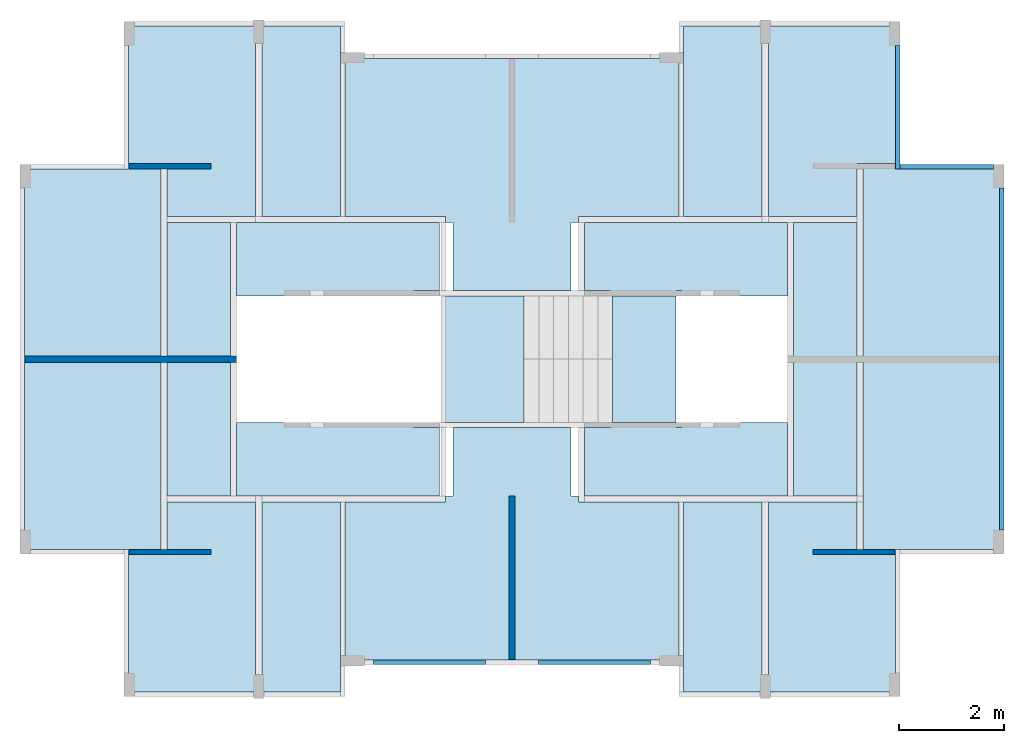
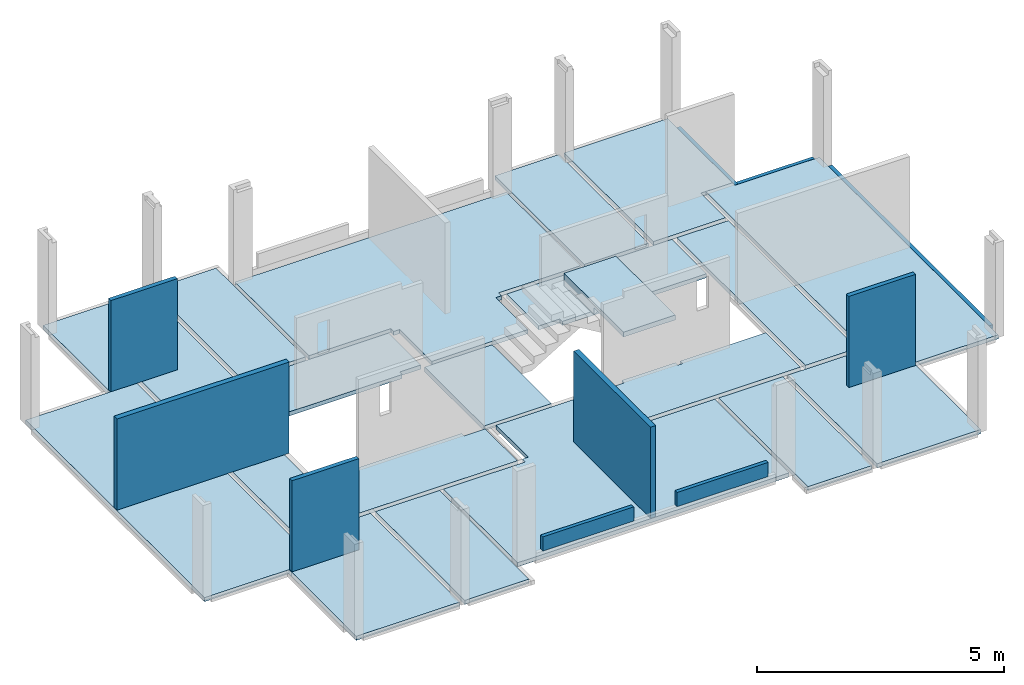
# One storey, part 3 of 6: 20 slabs, 7 walls, 3 beams, 1 element without a shape of its own.
"""IFC4 building model written with IfcOpenShell, lengths in metres."""

import ifcopenshell
import ifcopenshell.guid

model = None  # the IFC model being written
_history = None  # IfcOwnerHistory: only IFC2X3 demands one
_inside = {}  # id of a spatial element -> (the spatial element, [elements in it])
_under = {}  # id of a project, library or spatial element -> (it, [spatial elements below it])
_declared = {}  # id of a project -> (the project, [libraries it declares])
_typed = {}  # id of a type object -> (the type object, [elements of that type])
_made_of = {}  # id of a material, layer set ... -> (it, [elements and type objects made of it])


def new_model(schema):
    """Start an empty IFC model of exactly this schema.

    Asked for "IFC4X3", IfcOpenShell would pick the latest addendum, in which some entities
    have other attributes; the version numbers below select the first issue.
    IFC2X3 requires an IfcOwnerHistory on every rooted entity: one is made here for all.
    """
    global model, _history
    if schema == "IFC4X3":
        model = ifcopenshell.file(schema_version=(4, 3, 0, 0))
    else:
        model = ifcopenshell.file(schema=schema)
    _inside.clear()
    _under.clear()
    _declared.clear()
    _typed.clear()
    _made_of.clear()
    _history = None
    if model.schema == "IFC2X3":
        org = make("IfcOrganization", Name="unknown")
        user = make(
            "IfcPersonAndOrganization",
            ThePerson=make("IfcPerson", FamilyName="unknown"),
            TheOrganization=org,
        )
        app = make(
            "IfcApplication",
            ApplicationDeveloper=org,
            Version="unknown",
            ApplicationFullName="unknown",
            ApplicationIdentifier="unknown",
        )
        _history = make(
            "IfcOwnerHistory",
            OwningUser=user,
            OwningApplication=app,
            ChangeAction="ADDED",
            CreationDate=0,
        )
    return model


def make(cls, **values):
    """One entity of the class cls with the attributes given. An attribute that is None is left unset."""
    return model.create_entity(
        cls, **{name: value for name, value in values.items() if value is not None}
    )


def entity(cls, *values):
    """Any entity or typed value of the class cls, its attributes in the order of the schema. None: left unset."""
    e = model.create_entity(cls)
    for i, value in enumerate(values):
        if value is not None:
            e[i] = value
    return e


def rooted(cls, **values):
    """An entity with a GlobalId (a new one), such as an element, a storey or a relation."""
    return make(cls, GlobalId=ifcopenshell.guid.new(), OwnerHistory=_history, **values)


def si_unit(unit_type, name, prefix=None):
    """IfcSIUnit, for example si_unit("LENGTHUNIT", "METRE", prefix="MILLI")."""
    return make("IfcSIUnit", UnitType=unit_type, Prefix=prefix, Name=name)


def converted_unit(unit_type, name, factor, base, dimensions=None, offset=None):
    """IfcConversionBasedUnit, such as the inch: factor (a typed value) times the base unit."""
    return make(
        "IfcConversionBasedUnit"
        if offset is None
        else "IfcConversionBasedUnitWithOffset",
        ConversionOffset=offset,
        Dimensions=None
        if dimensions is None
        else entity("IfcDimensionalExponents", *dimensions),
        UnitType=unit_type,
        Name=name,
        ConversionFactor=make(
            "IfcMeasureWithUnit", ValueComponent=factor, UnitComponent=base
        ),
    )


def derived_unit(unit_type, elements):
    """IfcDerivedUnit: a product of units, each with its exponent."""
    return make(
        "IfcDerivedUnit",
        Elements=[
            make("IfcDerivedUnitElement", Unit=unit, Exponent=power)
            for unit, power in elements
        ],
        UnitType=unit_type,
    )


def assignment(units):
    """IfcUnitAssignment: the units of a project."""
    return None if units is None else make("IfcUnitAssignment", Units=units)


def point(xyz):
    """IfcCartesianPoint."""
    return None if xyz is None else make("IfcCartesianPoint", Coordinates=xyz)


def direction(xyz):
    """IfcDirection."""
    return None if xyz is None else make("IfcDirection", DirectionRatios=xyz)


def frame(location, z_axis=None, x_axis=None):
    """IfcAxis2Placement3D, a coordinate frame: its origin and axes. An axis left out is left unset."""
    return make(
        "IfcAxis2Placement3D",
        Location=point(location),
        Axis=direction(z_axis),
        RefDirection=direction(x_axis),
    )


def frame_2d(location, x_axis=None):
    """IfcAxis2Placement2D, a coordinate frame in the plane: its origin and x axis."""
    return make(
        "IfcAxis2Placement2D", Location=point(location), RefDirection=direction(x_axis)
    )


def origin():
    """The frame at (0, 0, 0) with its axes left unset."""
    return frame((0.0, 0.0, 0.0))


def place(relative_to, where):
    """IfcLocalPlacement: puts the frame where relative to a parent placement (None: the world)."""
    return make(
        "IfcLocalPlacement", PlacementRelTo=relative_to, RelativePlacement=where
    )


def context(
    kind, dimensions, precision=None, world=None, true_north=None, identifier=None
):
    """IfcGeometricRepresentationContext, for example the 3D "Model" context."""
    return make(
        "IfcGeometricRepresentationContext",
        ContextIdentifier=identifier,
        ContextType=kind,
        CoordinateSpaceDimension=dimensions,
        Precision=precision,
        WorldCoordinateSystem=world,
        TrueNorth=true_north,
    )


def subcontext(parent, identifier, kind, view, scale=None):
    """IfcGeometricRepresentationSubContext, for example "Body" below "Model"."""
    return make(
        "IfcGeometricRepresentationSubContext",
        ContextIdentifier=identifier,
        ContextType=kind,
        ParentContext=parent,
        TargetScale=scale,
        TargetView=view,
    )


def project(units=None, contexts=None):
    """IfcProject with its units and contexts."""
    return rooted(
        "IfcProject",
        Name="project",
        RepresentationContexts=contexts,
        UnitsInContext=assignment(units),
    )


def spatial(cls, under=None, at=None, **own):
    """A site, building, storey or space (cls), placed at a placement, below another one or the project."""
    s = rooted(cls, ObjectPlacement=at, **own)
    if under is not None:
        _under.setdefault(under.id(), (under, []))[1].append(s)
    return s


def polyline(points):
    """IfcPolyline through the points."""
    return make("IfcPolyline", Points=[point(p) for p in points])


def point_list(points):
    """IfcCartesianPointList2D or 3D."""
    cls = (
        "IfcCartesianPointList2D" if len(points[0]) == 2 else "IfcCartesianPointList3D"
    )
    return make(cls, CoordList=points)


def indexed_curve(points, segments=None, self_intersect=None):
    """IfcIndexedPolyCurve: lines and arcs through numbered points (the first is 1)."""
    return make(
        "IfcIndexedPolyCurve",
        Points=point_list(points),
        Segments=segments,
        SelfIntersect=self_intersect,
    )


def profile(cls, at=None, kind="AREA", **sizes):
    """A parametric profile (cls). Its sizes go by their IFC names, for example OverallWidth=200.0."""
    return make(cls, ProfileType=kind, Position=at, **sizes)


def rectangle(**sizes):
    """IfcRectangleProfileDef."""
    return profile("IfcRectangleProfileDef", **sizes)


def outline(outer, holes=None, kind="AREA"):
    """IfcArbitraryClosedProfileDef: a profile drawn as a closed curve; with holes, ...WithVoids."""
    if holes is None:
        return make("IfcArbitraryClosedProfileDef", ProfileType=kind, OuterCurve=outer)
    return make(
        "IfcArbitraryProfileDefWithVoids",
        ProfileType=kind,
        OuterCurve=outer,
        InnerCurves=holes,
    )


def extrude(swept, where, along, depth):
    """IfcExtrudedAreaSolid: the profile swept, set in the frame where, extruded along a direction by depth."""
    return make(
        "IfcExtrudedAreaSolid",
        SweptArea=swept,
        Position=where,
        ExtrudedDirection=direction(along),
        Depth=depth,
    )


def polygons(points, faces, closed=None, point_numbers=None):
    """IfcPolygonalFaceSet: a face is its outer loop, then its inner loops; points numbered from 1."""
    made = []
    for loops in faces:
        if len(loops) == 1:
            made.append(make("IfcIndexedPolygonalFace", CoordIndex=loops[0]))
        else:
            made.append(
                make(
                    "IfcIndexedPolygonalFaceWithVoids",
                    CoordIndex=loops[0],
                    InnerCoordIndices=loops[1:],
                )
            )
    return make(
        "IfcPolygonalFaceSet",
        Coordinates=point_list(points),
        Closed=closed,
        Faces=made,
        PnIndex=point_numbers,
    )


def shape(context_of_items, identifier, shape_type, items):
    """IfcShapeRepresentation: the items that make up one representation, for example the "Body"."""
    return make(
        "IfcShapeRepresentation",
        ContextOfItems=context_of_items,
        RepresentationIdentifier=identifier,
        RepresentationType=shape_type,
        Items=items,
    )


def source(mapping_origin, context_of_items, identifier, shape_type, items):
    """IfcRepresentationMap: a shape defined once, which mapped items show again and again."""
    return make(
        "IfcRepresentationMap",
        MappingOrigin=mapping_origin,
        MappedRepresentation=shape(context_of_items, identifier, shape_type, items),
    )


def transform(
    local_origin,
    x_axis=None,
    y_axis=None,
    z_axis=None,
    scale=None,
    scale2=None,
    scale3=None,
    uniform=True,
):
    """IfcCartesianTransformationOperator3D, or its non-uniform kind. x_axis, y_axis, z_axis: its Axis1, 2, 3."""
    if uniform:
        return make(
            "IfcCartesianTransformationOperator3D",
            Axis1=direction(x_axis),
            Axis2=direction(y_axis),
            LocalOrigin=point(local_origin),
            Scale=scale,
            Axis3=direction(z_axis),
        )
    return make(
        "IfcCartesianTransformationOperator3DnonUniform",
        Axis1=direction(x_axis),
        Axis2=direction(y_axis),
        LocalOrigin=point(local_origin),
        Scale=scale,
        Axis3=direction(z_axis),
        Scale2=scale2,
        Scale3=scale3,
    )


def mapped(mapping_source, mapping_target):
    """IfcMappedItem: shows the shape of a source again, moved by a transform."""
    return make(
        "IfcMappedItem", MappingSource=mapping_source, MappingTarget=mapping_target
    )


def material(Name=None, Category=None):
    """IfcMaterial."""
    return make("IfcMaterial", Name=Name, Category=Category)


def made_of(thing, what):
    """Note that an element or type object is made of a material, layer set ...; save() writes the relation."""
    if what is not None:
        _made_of.setdefault(what.id(), (what, []))[1].append(thing)
    return thing


def type_object(cls, material=None, **own):
    """A type object (cls), such as IfcWallType, which elements share."""
    return made_of(rooted(cls, **own), material)


def type_shapes(of_type, sources):
    """Give a type object the sources (RepresentationMaps) that its elements show as mapped items."""
    of_type.RepresentationMaps = sources


def element(
    cls,
    number,
    at=None,
    inside=None,
    cuts=None,
    type_object=None,
    material=None,
    context=None,
    identifier="Body",
    shape_type=None,
    held_by="IfcProductDefinitionShape",
    body=None,
    shapes=None,
    **own,
):
    """One element of the class cls, such as IfcWall. Its Tag is "e" and its number.

    at: its placement. inside: the storey or other place that contains it. cuts: it is an
    opening in that element (IfcRelVoidsElement). A single representation is given by context,
    identifier, shape_type and body (its items); several are given by shapes. held_by: the class
    of the entity that holds the representations. save() writes the other relations.
    """
    e = rooted(cls, Tag="e%d" % number, ObjectPlacement=at, **own)
    if body is not None:
        shapes = [shape(context, identifier, shape_type, body)]
    if shapes is not None:
        e.Representation = make(held_by, Representations=shapes)
    if inside is not None:
        _inside.setdefault(inside.id(), (inside, []))[1].append(e)
    if cuts is not None:
        rooted(
            "IfcRelVoidsElement", RelatingBuildingElement=cuts, RelatedOpeningElement=e
        )
    if type_object is not None:
        _typed.setdefault(type_object.id(), (type_object, []))[1].append(e)
    return made_of(e, material)


def aggregate(whole, parts):
    """IfcRelAggregates: a whole, such as a stair, and the parts it consists of."""
    return rooted("IfcRelAggregates", RelatingObject=whole, RelatedObjects=parts)


def save(model, path):
    """Write the relations noted so far, then the file.

    IfcRelAggregates (storeys below a building ...), IfcRelContainedInSpatialStructure (elements
    in a storey), IfcRelDefinesByType, IfcRelAssociatesMaterial and IfcRelDeclares: one each for
    every whole, place, type object, material and project.
    """
    for whole, parts in _under.values():
        aggregate(whole, parts)
    for where, things in _inside.values():
        rooted(
            "IfcRelContainedInSpatialStructure",
            RelatedElements=things,
            RelatingStructure=where,
        )
    for kind, things in _typed.values():
        rooted("IfcRelDefinesByType", RelatedObjects=things, RelatingType=kind)
    for what, things in _made_of.values():
        rooted("IfcRelAssociatesMaterial", RelatedObjects=things, RelatingMaterial=what)
    for by, libraries in _declared.values():
        rooted("IfcRelDeclares", RelatingContext=by, RelatedDefinitions=libraries)
    model.write(path)


model = new_model("IFC4")

# Units and contexts
model_context = context("Model", 3, precision=1e-05, world=origin(), true_north=direction((6.123031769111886e-17, 1.0)))
body_context = subcontext(model_context, "Body", "Model", "MODEL_VIEW")
ifc_project = project(units=[si_unit("LENGTHUNIT", "METRE"), si_unit("AREAUNIT", "SQUARE_METRE"), si_unit("VOLUMEUNIT", "CUBIC_METRE"), converted_unit("PLANEANGLEUNIT", "DEGREE", entity("IfcRatioMeasure", 0.017453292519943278), si_unit("PLANEANGLEUNIT", "RADIAN"), dimensions=[0, 0, 0, 0, 0, 0, 0]), si_unit("MASSUNIT", "GRAM", prefix="KILO"), derived_unit("MASSDENSITYUNIT", [(si_unit("MASSUNIT", "GRAM", prefix="KILO"), 1), (si_unit("LENGTHUNIT", "METRE"), -3)]), derived_unit("IONCONCENTRATIONUNIT", [(si_unit("MASSUNIT", "GRAM", prefix="KILO"), 1), (si_unit("LENGTHUNIT", "METRE"), -3)]), derived_unit("MOMENTOFINERTIAUNIT", [(si_unit("LENGTHUNIT", "METRE"), 4)]), si_unit("TIMEUNIT", "SECOND"), si_unit("FREQUENCYUNIT", "HERTZ"), si_unit("THERMODYNAMICTEMPERATUREUNIT", "DEGREE_CELSIUS"), derived_unit("THERMALTRANSMITTANCEUNIT", [(si_unit("MASSUNIT", "GRAM", prefix="KILO"), 1), (si_unit("THERMODYNAMICTEMPERATUREUNIT", "KELVIN"), -1), (si_unit("TIMEUNIT", "SECOND"), -3)]), derived_unit("THERMALCONDUCTANCEUNIT", [(si_unit("MASSUNIT", "GRAM", prefix="KILO"), 1), (si_unit("THERMODYNAMICTEMPERATUREUNIT", "KELVIN"), -1), (si_unit("TIMEUNIT", "SECOND"), -3), (si_unit("LENGTHUNIT", "METRE"), 1)]), derived_unit("VOLUMETRICFLOWRATEUNIT", [(si_unit("LENGTHUNIT", "METRE"), 3), (si_unit("TIMEUNIT", "SECOND"), -1)]), derived_unit("MASSFLOWRATEUNIT", [(si_unit("MASSUNIT", "GRAM", prefix="KILO"), 1), (si_unit("TIMEUNIT", "SECOND"), -1)]), derived_unit("ROTATIONALFREQUENCYUNIT", [(si_unit("TIMEUNIT", "SECOND"), -1)]), si_unit("ELECTRICCURRENTUNIT", "AMPERE"), si_unit("ELECTRICVOLTAGEUNIT", "VOLT"), si_unit("POWERUNIT", "WATT"), si_unit("FORCEUNIT", "NEWTON", prefix="KILO"), si_unit("ILLUMINANCEUNIT", "LUX"), si_unit("LUMINOUSFLUXUNIT", "LUMEN"), si_unit("LUMINOUSINTENSITYUNIT", "CANDELA"), derived_unit("USERDEFINED", [(si_unit("MASSUNIT", "GRAM", prefix="KILO"), -1), (si_unit("LENGTHUNIT", "METRE"), -2), (si_unit("TIMEUNIT", "SECOND"), 3), (si_unit("LUMINOUSFLUXUNIT", "LUMEN"), 1)]), derived_unit("USERDEFINED", [(si_unit("MASSUNIT", "GRAM", prefix="KILO"), 1), (si_unit("TIMEUNIT", "SECOND"), -3), (si_unit("LENGTHUNIT", "METRE"), 3), (si_unit("ELECTRICCURRENTUNIT", "AMPERE"), -2)]), derived_unit("SOUNDPOWERUNIT", [(si_unit("MASSUNIT", "GRAM", prefix="KILO"), 1), (si_unit("TIMEUNIT", "SECOND"), -3), (si_unit("LENGTHUNIT", "METRE"), 2)]), derived_unit("SOUNDPRESSUREUNIT", [(si_unit("MASSUNIT", "GRAM", prefix="KILO"), 1), (si_unit("LENGTHUNIT", "METRE"), -1), (si_unit("TIMEUNIT", "SECOND"), -2)]), derived_unit("LINEARVELOCITYUNIT", [(si_unit("LENGTHUNIT", "METRE"), 1), (si_unit("TIMEUNIT", "SECOND"), -1)]), si_unit("PRESSUREUNIT", "PASCAL"), derived_unit("USERDEFINED", [(si_unit("MASSUNIT", "GRAM", prefix="KILO"), 1), (si_unit("LENGTHUNIT", "METRE"), -2), (si_unit("TIMEUNIT", "SECOND"), -2)]), derived_unit("LINEARFORCEUNIT", [(si_unit("MASSUNIT", "GRAM", prefix="KILO"), 1), (si_unit("TIMEUNIT", "SECOND"), -2)]), derived_unit("PLANARFORCEUNIT", [(si_unit("MASSUNIT", "GRAM", prefix="KILO"), 1), (si_unit("LENGTHUNIT", "METRE"), -1), (si_unit("TIMEUNIT", "SECOND"), -2)]), derived_unit("SPECIFICHEATCAPACITYUNIT", [(si_unit("THERMODYNAMICTEMPERATUREUNIT", "KELVIN"), -1), (si_unit("LENGTHUNIT", "METRE"), 2), (si_unit("TIMEUNIT", "SECOND"), -2)]), derived_unit("HEATINGVALUEUNIT", [(si_unit("LENGTHUNIT", "METRE"), 2), (si_unit("TIMEUNIT", "SECOND"), -2)]), derived_unit("VAPORPERMEABILITYUNIT", [(si_unit("LENGTHUNIT", "METRE"), -1), (si_unit("TIMEUNIT", "SECOND"), 1)]), derived_unit("DYNAMICVISCOSITYUNIT", [(si_unit("MASSUNIT", "GRAM", prefix="KILO"), 1), (si_unit("TIMEUNIT", "SECOND"), -1), (si_unit("LENGTHUNIT", "METRE"), -1)]), derived_unit("THERMALEXPANSIONCOEFFICIENTUNIT", [(si_unit("THERMODYNAMICTEMPERATUREUNIT", "KELVIN"), -1)]), derived_unit("MODULUSOFELASTICITYUNIT", [(si_unit("MASSUNIT", "GRAM", prefix="KILO"), 1), (si_unit("LENGTHUNIT", "METRE"), -1), (si_unit("TIMEUNIT", "SECOND"), -2)]), derived_unit("ISOTHERMALMOISTURECAPACITYUNIT", [(si_unit("LENGTHUNIT", "METRE"), 3), (si_unit("MASSUNIT", "GRAM", prefix="KILO"), -1)]), derived_unit("MOISTUREDIFFUSIVITYUNIT", [(si_unit("TIMEUNIT", "SECOND"), -1), (si_unit("LENGTHUNIT", "METRE"), 2)])], contexts=[model_context])

# Site, building, storey
site_placement = place(None, origin())
site = spatial("IfcSite", under=ifc_project, at=site_placement, Name="Default", CompositionType="ELEMENT")
building_placement = place(site_placement, origin())
building = spatial("IfcBuilding", under=site, at=building_placement, Name="Las nubes", CompositionType="ELEMENT")
storey_placement = place(building_placement, frame((0.0, 0.0, 7.050000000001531)))
storey = spatial("IfcBuildingStorey", under=building, at=storey_placement, Name="PISO 4", CompositionType="ELEMENT", Elevation=7.050000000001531)

# Beams
ifc_material_1 = material(Name="Concrete, Cast In Situ", Category="Materials")
beam_type_1 = type_object("IfcBeamType", Name="M_Concrete-Rectangular Beam:(0.085x0.10)", PredefinedType="BEAM", material=ifc_material_1)
shared_shape_1 = source(origin(), body_context, "Body", "SweptSolid", [
    extrude(outline(indexed_curve([(-0.042499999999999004, -0.04999999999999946), (0.042500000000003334, -0.04999999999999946), (0.042500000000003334, 0.050000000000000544), (-0.042499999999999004, 0.050000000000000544), (-0.042499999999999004, -0.04999999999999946)], self_intersect=False)), frame((18.630000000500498, -9.675000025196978, 7.0), z_axis=(0.0, 1.0, 0.0), x_axis=(-1.0, 0.0, 0.0)), (0.0, 0.0, 1.0), 6.499999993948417),
])
type_shapes(beam_type_1, [shared_shape_1])
beam_1_placement = place(storey_placement, frame((0.0, 0.0, -7.050000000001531)))
element("IfcBeam", 1, at=beam_1_placement, inside=storey, type_object=beam_type_1, material=ifc_material_1, Name="M_Concrete-Rectangular Beam:(0.085x0.10)", ObjectType="M_Concrete-Rectangular Beam:(0.085x0.10)", PredefinedType="BEAM", context=body_context, shape_type="MappedRepresentation", body=[
    mapped(shared_shape_1, transform((0.0, 0.0, 0.0), scale=1.0)),
])
beam_type_2 = type_object("IfcBeamType", Name="M_Concrete-Rectangular Beam:(0.085x0.10)", PredefinedType="BEAM", material=ifc_material_1)
shared_shape_2 = source(origin(), body_context, "Body", "SweptSolid", [
    extrude(outline(indexed_curve([(-0.042500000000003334, -0.04999999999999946), (0.042499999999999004, -0.04999999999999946), (0.042499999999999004, 0.050000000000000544), (-0.042500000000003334, 0.050000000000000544), (-0.042500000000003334, -0.04999999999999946)], self_intersect=False)), frame((16.65500000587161, -2.8099983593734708, 7.0), z_axis=(0.0, 1.0, 0.0), x_axis=(-1.0, 0.0, 0.0)), (0.0, 0.0, 1.0), 2.34999833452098),
])
type_shapes(beam_type_2, [shared_shape_2])
beam_2_placement = place(storey_placement, frame((0.0, 0.0, -7.050000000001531)))
element("IfcBeam", 2, at=beam_2_placement, inside=storey, type_object=beam_type_2, material=ifc_material_1, Name="M_Concrete-Rectangular Beam:(0.085x0.10)", ObjectType="M_Concrete-Rectangular Beam:(0.085x0.10)", PredefinedType="BEAM", context=body_context, shape_type="MappedRepresentation", body=[
    mapped(shared_shape_2, transform((0.0, 0.0, 0.0), scale=1.0)),
])
beam_type_3 = type_object("IfcBeamType", Name="M_Concrete-Rectangular Beam:(0.085x0.10)", PredefinedType="BEAM", material=ifc_material_1)
shared_shape_3 = source(origin(), body_context, "Body", "SweptSolid", [
    extrude(outline(indexed_curve([(-0.050000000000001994, -0.04249999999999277), (0.04999999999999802, -0.04250000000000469), (0.05000000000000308, 0.04249999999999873), (-0.049999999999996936, 0.04250000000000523), (-0.050000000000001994, -0.04249999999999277)], self_intersect=False)), frame((18.472500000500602, -2.7674983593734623, 7.0), z_axis=(-1.0, 0.0, 0.0), x_axis=(0.0, 0.0, -1.0)), (0.0, 0.0, 1.0), 1.7749999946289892),
])
type_shapes(beam_type_3, [shared_shape_3])
beam_3_placement = place(storey_placement, frame((0.0, 0.0, -7.050000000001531)))
element("IfcBeam", 3, at=beam_3_placement, inside=storey, type_object=beam_type_3, material=ifc_material_1, Name="M_Concrete-Rectangular Beam:(0.085x0.10)", ObjectType="M_Concrete-Rectangular Beam:(0.085x0.10)", PredefinedType="BEAM", context=body_context, shape_type="MappedRepresentation", body=[
    mapped(shared_shape_3, transform((0.0, 0.0, 0.0), scale=1.0)),
])

# Slabs
ifc_material_2 = material(Name="Concrete - Cast-in-Place Concrete - 28 MPa SLAB", Category="Materials")
slab_type_1 = type_object("IfcSlabType", Name="Floor:PLACA ESTRUCTURAL 0.10", PredefinedType="FLOOR", material=ifc_material_2)
slab_1_placement = place(storey_placement, origin())
element("IfcSlab", 4, at=slab_1_placement, inside=storey, type_object=slab_type_1, material=ifc_material_2, Name="Floor:PLACA ESTRUCTURAL 0.10", ObjectType="Floor:PLACA ESTRUCTURAL 0.10", PredefinedType="FLOOR", context=body_context, shape_type="SweptSolid", body=[
    extrude(outline(indexed_curve([(-0.5383333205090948, -1.0516670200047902), (2.0766666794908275, -1.0516670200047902), (2.07666667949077, 1.368332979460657), (-1.5383333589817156, 1.3683329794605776), (-1.5383333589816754, -0.316665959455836), (-0.5383333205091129, -0.31666595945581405), (-0.5383333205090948, -1.0516670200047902)], self_intersect=False)), frame((3.0841670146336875, -2.1716667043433, 0.0), z_axis=(0.0, 0.0, -1.0), x_axis=(0.0, 1.0, 0.0)), (0.0, 0.0, 1.0), 0.1),
])
slab_2_placement = place(storey_placement, origin())
element("IfcSlab", 5, at=slab_2_placement, inside=storey, type_object=slab_type_1, material=ifc_material_2, Name="Floor:PLACA ESTRUCTURAL 0.10", ObjectType="Floor:PLACA ESTRUCTURAL 0.10", PredefinedType="FLOOR", context=body_context, shape_type="SweptSolid", body=[
    extrude(outline(indexed_curve([(-3.6149999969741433, -1.636250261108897), (3.614999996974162, -1.636250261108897), (3.614999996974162, 0.33874973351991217), (3.7150000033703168, 0.3387497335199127), (3.7150000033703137, 0.9587507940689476), (-3.7150000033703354, 0.9587507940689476), (-3.715000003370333, 0.33874973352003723), (-3.6149999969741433, 0.3387497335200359), (-3.6149999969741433, -1.636250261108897)], self_intersect=False)), frame((1.693750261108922, -6.425000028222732, 0.0), z_axis=(0.0, 0.0, -1.0), x_axis=(0.0, 1.0, 0.0)), (0.0, 0.0, 1.0), 0.1),
])
slab_3_placement = place(storey_placement, origin())
element("IfcSlab", 6, at=slab_3_placement, inside=storey, type_object=slab_type_1, material=ifc_material_2, Name="Floor:PLACA ESTRUCTURAL 0.10", ObjectType="Floor:PLACA ESTRUCTURAL 0.10", PredefinedType="FLOOR", context=body_context, shape_type="SweptSolid", body=[
    extrude(outline(indexed_curve([(-2.0766666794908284, -1.0516670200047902), (0.5383333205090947, -1.0516670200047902), (0.5383333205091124, -0.3166659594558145), (1.5383333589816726, -0.3166659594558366), (1.5383333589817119, 1.368332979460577), (-2.0766666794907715, 1.3683329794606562), (-2.0766666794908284, -1.0516670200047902)], self_intersect=False)), frame((3.0841670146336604, -10.67833335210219, 0.0), z_axis=(0.0, 0.0, -1.0), x_axis=(0.0, 1.0, 0.0)), (0.0, 0.0, 1.0), 0.1),
])
slab_4_placement = place(storey_placement, frame((2.767501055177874, -12.755000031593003, -0.09999999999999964)))
element("IfcSlab", 7, at=slab_4_placement, inside=storey, type_object=slab_type_1, material=ifc_material_2, Name="Floor:PLACA ESTRUCTURAL 0.10", ObjectType="Floor:PLACA ESTRUCTURAL 0.10", PredefinedType="FLOOR", context=body_context, shape_type="SweptSolid", body=[
    extrude(rectangle(XDim=1.2049989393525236, YDim=5.19999992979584, at=frame_2d((5.952499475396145, 0.0), x_axis=(1.0, 0.0))), frame((6.554998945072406, 6.33000000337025, 0.09999999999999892), z_axis=(0.0, 0.0, -1.0), x_axis=(-1.0, 0.0, 0.0)), (0.0, 0.0, 1.0), 0.1),
])
slab_5_placement = place(storey_placement, frame((2.767501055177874, -12.755000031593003, -0.09999999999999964)))
element("IfcSlab", 8, at=slab_5_placement, inside=storey, type_object=slab_type_1, Name="Floor:PLACA ESTRUCTURAL 0.10:2", ObjectType="Floor:PLACA ESTRUCTURAL 0.10", PredefinedType="FLOOR", context=body_context, shape_type="SweptSolid", body=[
    extrude(outline(polyline([(1.3749999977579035, 2.599999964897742), (1.3749999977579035, 1.300000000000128), (1.8700000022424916, 1.300000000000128), (1.8700000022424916, 1.2000000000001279), (5.235000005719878, 1.2000000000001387), (5.235000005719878, 2.5999999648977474), (1.3749999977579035, 2.599999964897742)])), frame((6.554998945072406, 6.33000000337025, 0.09999999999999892), z_axis=(0.0, 0.0, -1.0), x_axis=(-1.0, 0.0, 0.0)), (0.0, 0.0, 1.0), 0.1),
])
slab_6_placement = place(storey_placement, frame((2.767501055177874, -12.755000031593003, -0.09999999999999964)))
element("IfcSlab", 9, at=slab_6_placement, inside=storey, type_object=slab_type_1, Name="Floor:PLACA ESTRUCTURAL 0.10:3", ObjectType="Floor:PLACA ESTRUCTURAL 0.10", PredefinedType="FLOOR", context=body_context, shape_type="SweptSolid", body=[
    extrude(outline(polyline([(5.235000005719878, -1.2000000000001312), (1.8699999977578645, -1.2000000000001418), (1.8699999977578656, -1.3000000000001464), (1.3749999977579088, -1.3000000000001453), (1.3749999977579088, -2.600000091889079), (5.235000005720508, -2.600000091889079), (5.235000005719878, -1.2000000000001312)])), frame((6.554998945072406, 6.33000000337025, 0.09999999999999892), z_axis=(0.0, 0.0, -1.0), x_axis=(-1.0, 0.0, 0.0)), (0.0, 0.0, 1.0), 0.1),
])
slab_7_placement = place(storey_placement, frame((2.767501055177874, -12.755000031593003, -0.09999999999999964)))
element("IfcSlab", 10, at=slab_7_placement, inside=storey, type_object=slab_type_1, Name="Floor:PLACA ESTRUCTURAL 0.10:4", ObjectType="Floor:PLACA ESTRUCTURAL 0.10", PredefinedType="FLOOR", context=body_context, shape_type="SweptSolid", body=[
    extrude(rectangle(XDim=3.6149999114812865, YDim=1.499999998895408, at=frame_2d((4.00500000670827, 4.522500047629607), x_axis=(0.0, -1.0))), frame((6.554998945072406, 6.33000000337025, 0.09999999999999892), z_axis=(0.0, 0.0, -1.0), x_axis=(-1.0, 0.0, 0.0)), (0.0, 0.0, 1.0), 0.1),
])
slab_8_placement = place(storey_placement, frame((2.767501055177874, -12.755000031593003, -0.09999999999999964)))
element("IfcSlab", 11, at=slab_8_placement, inside=storey, type_object=slab_type_1, Name="Floor:PLACA ESTRUCTURAL 0.10:5", ObjectType="Floor:PLACA ESTRUCTURAL 0.10", PredefinedType="FLOOR", context=body_context, shape_type="SweptSolid", body=[
    extrude(rectangle(XDim=3.6149999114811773, YDim=1.4999999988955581, at=frame_2d((4.005000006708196, -4.522500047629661), x_axis=(0.0, -1.0))), frame((6.554998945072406, 6.33000000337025, 0.09999999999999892), z_axis=(0.0, 0.0, -1.0), x_axis=(-1.0, 0.0, 0.0)), (0.0, 0.0, 1.0), 0.1),
])
slab_9_placement = place(storey_placement, frame((2.767501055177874, -12.755000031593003, -0.09999999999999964)))
element("IfcSlab", 12, at=slab_9_placement, inside=storey, type_object=slab_type_1, Name="Floor:PLACA ESTRUCTURAL 0.10:6", ObjectType="Floor:PLACA ESTRUCTURAL 0.10", PredefinedType="FLOOR", context=body_context, shape_type="SweptSolid", body=[
    extrude(outline(polyline([(3.1700000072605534, 2.7150000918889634), (3.1700000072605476, 5.715000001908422), (-3.1700000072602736, 5.715000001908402), (-3.1700000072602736, 2.7150000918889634), (-1.2599999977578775, 2.7150000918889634), (-1.2599999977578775, 2.5999999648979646), (-1.1199999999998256, 2.5999999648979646), (-1.1199999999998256, 1.3000000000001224), (1.1200000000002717, 1.30000000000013), (1.1200000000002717, 2.5999999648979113), (1.2599999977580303, 2.5999999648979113), (1.2599999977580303, 2.7150000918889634), (3.1700000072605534, 2.7150000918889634)])), frame((6.554998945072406, 6.33000000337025, 0.09999999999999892), z_axis=(0.0, 0.0, -1.0), x_axis=(-1.0, 0.0, 0.0)), (0.0, 0.0, 1.0), 0.1),
])
slab_10_placement = place(storey_placement, frame((2.767501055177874, -12.755000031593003, -0.09999999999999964)))
element("IfcSlab", 13, at=slab_10_placement, inside=storey, type_object=slab_type_1, Name="Floor:PLACA ESTRUCTURAL 0.10:7", ObjectType="Floor:PLACA ESTRUCTURAL 0.10", PredefinedType="FLOOR", context=body_context, shape_type="SweptSolid", body=[
    extrude(outline(polyline([(1.2599999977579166, -2.599999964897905), (1.1200000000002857, -2.599999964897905), (1.1200000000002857, -1.3000000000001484), (-1.1199999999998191, -1.3000000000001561), (-1.1199999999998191, -2.5999999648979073), (-1.2599999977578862, -2.5999999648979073), (-1.2599999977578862, -2.7150000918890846), (-3.1700000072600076, -2.7150000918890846), (-3.170000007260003, -5.715000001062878), (3.1700000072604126, -5.715000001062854), (3.170000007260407, -2.715000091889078), (1.2599999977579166, -2.7150000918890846), (1.2599999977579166, -2.599999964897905)])), frame((6.554998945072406, 6.33000000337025, 0.09999999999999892), z_axis=(0.0, 0.0, -1.0), x_axis=(-1.0, 0.0, 0.0)), (0.0, 0.0, 1.0), 0.1),
])
slab_11_placement = place(storey_placement, frame((2.767501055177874, -12.755000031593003, -0.09999999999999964)))
element("IfcSlab", 14, at=slab_11_placement, inside=storey, type_object=slab_type_1, Name="Floor:PLACA ESTRUCTURAL 0.10:8", ObjectType="Floor:PLACA ESTRUCTURAL 0.10", PredefinedType="FLOOR", context=body_context, shape_type="SweptSolid", body=[
    extrude(rectangle(XDim=1.499999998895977, YDim=3.6149999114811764, at=frame_2d((-4.005000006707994, -4.522500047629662), x_axis=(1.0, 0.0))), frame((6.554998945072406, 6.33000000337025, 0.09999999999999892), z_axis=(0.0, 0.0, -1.0), x_axis=(-1.0, 0.0, 0.0)), (0.0, 0.0, 1.0), 0.1),
])
slab_12_placement = place(storey_placement, frame((2.767501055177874, -12.755000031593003, -0.09999999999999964)))
element("IfcSlab", 15, at=slab_12_placement, inside=storey, type_object=slab_type_1, Name="Floor:PLACA ESTRUCTURAL 0.10:9", ObjectType="Floor:PLACA ESTRUCTURAL 0.10", PredefinedType="FLOOR", context=body_context, shape_type="SweptSolid", body=[
    extrude(rectangle(XDim=1.499999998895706, YDim=3.614999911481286, at=frame_2d((-4.005000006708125, 4.522500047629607), x_axis=(1.0, 0.0))), frame((6.554998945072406, 6.33000000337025, 0.09999999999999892), z_axis=(0.0, 0.0, -1.0), x_axis=(-1.0, 0.0, 0.0)), (0.0, 0.0, 1.0), 0.1),
])
slab_13_placement = place(storey_placement, frame((2.767501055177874, -12.755000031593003, -0.09999999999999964)))
element("IfcSlab", 16, at=slab_13_placement, inside=storey, type_object=slab_type_1, Name="Floor:PLACA ESTRUCTURAL 0.10:10", ObjectType="Floor:PLACA ESTRUCTURAL 0.10", PredefinedType="FLOOR", context=body_context, shape_type="SweptSolid", body=[
    extrude(rectangle(XDim=1.2049989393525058, YDim=5.1999999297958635, at=frame_2d((-5.95249947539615, 0.0), x_axis=(1.0, 0.0))), frame((6.554998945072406, 6.33000000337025, 0.09999999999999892), z_axis=(0.0, 0.0, -1.0), x_axis=(-1.0, 0.0, 0.0)), (0.0, 0.0, 1.0), 0.1),
])
slab_14_placement = place(storey_placement, frame((2.767501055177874, -12.755000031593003, -0.09999999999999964)))
element("IfcSlab", 17, at=slab_14_placement, inside=storey, type_object=slab_type_1, Name="Floor:PLACA ESTRUCTURAL 0.10:11", ObjectType="Floor:PLACA ESTRUCTURAL 0.10", PredefinedType="FLOOR", context=body_context, shape_type="SweptSolid", body=[
    extrude(outline(polyline([(-3.1200000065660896, 1.2000000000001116), (-1.8699999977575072, 1.2000000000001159), (-1.8699999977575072, 1.3000000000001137), (-1.374999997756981, 1.3000000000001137), (-1.374999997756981, 2.6000000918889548), (-5.235000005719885, 2.600000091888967), (-5.235000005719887, 1.2000000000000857), (-3.2350000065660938, 1.2000000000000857), (-3.2350000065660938, 1.300000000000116), (-3.1200000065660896, 1.300000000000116), (-3.1200000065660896, 1.2000000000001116)])), frame((6.554998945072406, 6.33000000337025, 0.09999999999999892), z_axis=(0.0, 0.0, -1.0), x_axis=(-1.0, 0.0, 0.0)), (0.0, 0.0, 1.0), 0.1),
])
slab_15_placement = place(storey_placement, frame((2.767501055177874, -12.755000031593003, -0.09999999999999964)))
element("IfcSlab", 18, at=slab_15_placement, inside=storey, type_object=slab_type_1, Name="Floor:PLACA ESTRUCTURAL 0.10:12", ObjectType="Floor:PLACA ESTRUCTURAL 0.10", PredefinedType="FLOOR", context=body_context, shape_type="SweptSolid", body=[
    extrude(outline(polyline([(-5.235000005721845, -2.6000000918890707), (-1.3749999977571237, -2.6000000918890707), (-1.3749999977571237, -1.3000000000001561), (-1.8699999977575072, -1.3000000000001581), (-1.8699999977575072, -1.2000000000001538), (-3.120000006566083, -1.2000000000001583), (-3.120000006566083, -1.300000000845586), (-3.2350000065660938, -1.300000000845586), (-3.2350000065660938, -1.1999999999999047), (-5.2350000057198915, -1.1999999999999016), (-5.235000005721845, -2.6000000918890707)])), frame((6.554998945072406, 6.33000000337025, 0.09999999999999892), z_axis=(0.0, 0.0, -1.0), x_axis=(-1.0, 0.0, 0.0)), (0.0, 0.0, 1.0), 0.1),
])
slab_16_placement = place(storey_placement, origin())
element("IfcSlab", 19, at=slab_16_placement, inside=storey, type_object=slab_type_1, material=ifc_material_2, Name="Floor:PLACA ESTRUCTURAL 0.10", ObjectType="Floor:PLACA ESTRUCTURAL 0.10", PredefinedType="FLOOR", context=body_context, shape_type="SweptSolid", body=[
    extrude(outline(indexed_curve([(-3.7150000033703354, -0.9587507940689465), (3.7150000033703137, -0.9587507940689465), (3.7150000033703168, -0.33874973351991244), (3.614999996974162, -0.33874973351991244), (3.614999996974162, 1.636250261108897), (-3.6149999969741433, 1.636250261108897), (-3.6149999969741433, -0.3387497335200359), (-3.715000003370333, -0.33874973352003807), (-3.7150000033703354, -0.9587507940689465)], self_intersect=False)), frame((16.95124973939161, -6.425000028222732, 0.0), z_axis=(0.0, 0.0, -1.0), x_axis=(0.0, 1.0, 0.0)), (0.0, 0.0, 1.0), 0.1),
])
slab_17_placement = place(storey_placement, origin())
element("IfcSlab", 20, at=slab_17_placement, inside=storey, type_object=slab_type_1, material=ifc_material_2, Name="Floor:PLACA ESTRUCTURAL 0.10", ObjectType="Floor:PLACA ESTRUCTURAL 0.10", PredefinedType="FLOOR", context=body_context, shape_type="SweptSolid", body=[
    extrude(outline(indexed_curve([(-2.0766666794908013, -1.368332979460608), (1.538333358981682, -1.368332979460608), (1.5383333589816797, 0.316665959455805), (0.5383333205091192, 0.3166659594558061), (0.5383333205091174, 1.0516670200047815), (-2.0766666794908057, 1.0516670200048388), (-2.0766666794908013, -1.368332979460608)], self_intersect=False)), frame((15.56083298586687, -10.67833335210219, 0.0), z_axis=(0.0, 0.0, -1.0), x_axis=(0.0, 1.0, 0.0)), (0.0, 0.0, 1.0), 0.1),
])
slab_18_placement = place(storey_placement, origin())
element("IfcSlab", 21, at=slab_18_placement, inside=storey, type_object=slab_type_1, material=ifc_material_2, Name="Floor:PLACA ESTRUCTURAL 0.10", ObjectType="Floor:PLACA ESTRUCTURAL 0.10", PredefinedType="FLOOR", context=body_context, shape_type="SweptSolid", body=[
    extrude(outline(indexed_curve([(-1.5383333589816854, -1.3683329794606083), (2.0766666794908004, -1.3683329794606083), (2.076666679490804, 1.0516670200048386), (-0.538333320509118, 1.0516670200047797), (-0.5383333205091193, 0.3166659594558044), (-1.538333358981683, 0.31666595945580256), (-1.5383333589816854, -1.3683329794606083)], self_intersect=False)), frame((15.56083298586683, -2.1716667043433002, 0.0), z_axis=(0.0, 0.0, -1.0), x_axis=(0.0, 1.0, 0.0)), (0.0, 0.0, 1.0), 0.1),
])

# Stair, slab
stair_type = type_object("IfcStairType", Name="Cast-In-Place Stair:B1080_Escalera Monolitica en Concreto", PredefinedType="HALF_TURN_STAIR")
stair_placement = place(storey_placement, origin())
stair = element("IfcStair", 22, at=stair_placement, inside=storey, type_object=stair_type, Name="Cast-In-Place Stair:Stair", ObjectType="Cast-In-Place Stair:B1080_Escalera Monolitica en Concreto", PredefinedType="HALF_TURN_STAIR")
ifc_material_3 = material(Name="Concrete, Cast-in-Place gray", Category="Materials")
slab_type_2 = type_object("IfcSlabType", Name="Monolithic Landing:120mm Thickness", PredefinedType="LANDING")
slab_19_placement = place(stair_placement, frame((11.23250000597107, -7.625000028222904, 0.0)))
slab_19 = element("IfcSlab", 23, at=slab_19_placement, type_object=slab_type_2, material=ifc_material_3, Name="Cast-In-Place Stair:Stair:524173 Landing 1", ObjectType="Monolithic Landing:120mm Thickness", PredefinedType="LANDING", context=body_context, shape_type="Tessellation", body=[
    polygons([(0.0, 2.4000000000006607, 1.1750000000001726), (0.0, 1.2000000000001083, 1.1750000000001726), (0.0, 1.199000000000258, 1.1750000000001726), (0.0, 0.0, 1.1750000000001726), (1.2100000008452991, 0.0, 1.1750000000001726), (1.2100000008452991, 2.4000000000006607, 1.1750000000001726), (0.31321383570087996, 2.4000000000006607, 1.1750000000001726), (1.2100000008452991, 0.0, 1.0550000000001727), (1.2100000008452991, 2.4000000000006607, 1.0550000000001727), (0.0, 2.4000000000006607, 0.8672315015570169), (0.0, 2.4000000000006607, 1.007142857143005), (0.3132138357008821, 2.4000000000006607, 1.0550000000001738), (0.0, 0.0, 1.0550000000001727), (0.31321383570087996, 1.2000000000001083, 1.0550000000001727), (0.0, 1.199000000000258, 1.0550000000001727), (0.0, 1.2000000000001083, 1.0550000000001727), (0.0, 1.2000000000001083, 0.8672315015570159), (0.0, 1.2000000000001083, 1.007142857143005)], [[[1, 2, 3, 4, 5, 6, 7]], [[6, 5, 8, 9]], [[10, 11, 1, 7, 6, 9, 12]], [[5, 4, 13, 8]], [[14, 12, 9, 8, 13, 15, 16]], [[2, 1, 11, 10, 17, 18, 16]], [[3, 2, 16, 15]], [[12, 14, 17, 10]], [[14, 16, 18, 17]], [[4, 3, 15, 13]]], closed=True),
])
aggregate(stair, [slab_19])

# Slab
slab_type_3 = type_object("IfcSlabType", Name="Floor:PLACA ESTRUCTURAL 0.12", PredefinedType="FLOOR", material=ifc_material_1)
slab_20_placement = place(storey_placement, origin())
element("IfcSlab", 24, at=slab_20_placement, inside=storey, type_object=slab_type_3, material=ifc_material_1, Name="Floor:PLACA ESTRUCTURAL 0.12", ObjectType="Floor:PLACA ESTRUCTURAL 0.12", PredefinedType="FLOOR", context=body_context, shape_type="SweptSolid", body=[
    extrude(outline(indexed_curve([(-1.2000000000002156, -0.7875000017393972), (1.2000000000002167, -0.7875000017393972), (1.2000000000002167, 0.7875000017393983), (-1.2000000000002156, 0.7875000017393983), (-1.2000000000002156, -0.7875000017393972)], self_intersect=False)), frame((8.765000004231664, -6.425000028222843, 0.0), z_axis=(0.0, 0.0, -1.0), x_axis=(0.0, 1.0, 0.0)), (0.0, 0.0, 1.0), 0.11999999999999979),
])

# Walls
ifc_material_4 = material(Name="Concrete - Cast-in-Place Concrete - 35 MPa", Category="Materials")
wall_type_1 = type_object("IfcWallType", Name="Basic Wall:MURO 12cm", PredefinedType="STANDARD")
wall_1_placement = place(storey_placement, frame((9.322500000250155, -12.129999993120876, 0.0), z_axis=(0.0, 0.0, 1.0), x_axis=(0.0, 1.0, 0.0)))
element("IfcWall", 25, at=wall_1_placement, inside=storey, type_object=wall_type_1, material=ifc_material_4, Name="Basic Wall:MURO 12cm", ObjectType="Basic Wall:MURO 12cm", PredefinedType="NOTDEFINED", context=body_context, shape_type="SweptSolid", body=[
    extrude(outline(indexed_curve([(3.105, 0.06000000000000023), (-1.0057589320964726e-16, 0.060000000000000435), (1.0057589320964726e-16, -0.060000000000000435), (3.105, -0.06000000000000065), (3.105, 0.06000000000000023)], self_intersect=False)), origin(), (0.0, 0.0, 1.0), 2.2499999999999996),
])
wall_2_placement = place(storey_placement, frame((0.06750000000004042, -6.425000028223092, 0.0)))
element("IfcWall", 26, at=wall_2_placement, inside=storey, type_object=wall_type_1, material=ifc_material_4, Name="Basic Wall:MURO 12cm", ObjectType="Basic Wall:MURO 12cm", PredefinedType="NOTDEFINED", context=body_context, shape_type="SweptSolid", body=[
    extrude(outline(indexed_curve([(4.0199999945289, 0.060000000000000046), (-1.9797595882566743e-18, 0.060000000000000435), (1.9797595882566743e-18, -0.060000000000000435), (4.0199999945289, -0.06000000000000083), (4.0199999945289, 0.060000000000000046)], self_intersect=False)), origin(), (0.0, 0.0, 1.0), 2.2499999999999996),
])
wall_type_2 = type_object("IfcWallType", Name="Basic Wall:MURO 10cm", PredefinedType="STANDARD")
wall_3_placement = place(storey_placement, frame((3.602499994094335, -10.090000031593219, 0.0), z_axis=(0.0, 0.0, 1.0), x_axis=(-1.0, 0.0, 0.0)))
element("IfcWall", 27, at=wall_3_placement, inside=storey, type_object=wall_type_2, material=ifc_material_4, Name="Basic Wall:MURO 10cm", ObjectType="Basic Wall:MURO 10cm", PredefinedType="NOTDEFINED", context=body_context, shape_type="SweptSolid", body=[
    extrude(outline(indexed_curve([(1.5599999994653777, 0.049999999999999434), (-1.3794485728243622e-16, 0.04999999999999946), (1.3794485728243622e-16, -0.04999999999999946), (1.5599999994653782, -0.04999999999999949), (1.5599999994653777, 0.049999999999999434)], self_intersect=False)), origin(), (0.0, 0.0, 1.0), 2.2499999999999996),
])
wall_4_placement = place(storey_placement, frame((15.04250000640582, -10.090000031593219, 0.0)))
element("IfcWall", 28, at=wall_4_placement, inside=storey, type_object=wall_type_2, material=ifc_material_4, Name="Basic Wall:MURO 10cm", ObjectType="Basic Wall:MURO 10cm", PredefinedType="NOTDEFINED", context=body_context, shape_type="SweptSolid", body=[
    extrude(outline(indexed_curve([(1.5599999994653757, 0.049999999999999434), (-1.3794485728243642e-16, 0.04999999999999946), (1.3794485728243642e-16, -0.04999999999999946), (1.5599999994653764, -0.04999999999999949), (1.5599999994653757, 0.049999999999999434)], self_intersect=False)), origin(), (0.0, 0.0, 1.0), 2.2499999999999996),
])
wall_5_placement = place(storey_placement, frame((3.6024999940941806, -2.7600000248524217, 0.0), z_axis=(0.0, 0.0, 1.0), x_axis=(-1.0, 0.0, 0.0)))
element("IfcWall", 29, at=wall_5_placement, inside=storey, type_object=wall_type_2, material=ifc_material_4, Name="Basic Wall:MURO 10cm", ObjectType="Basic Wall:MURO 10cm", PredefinedType="NOTDEFINED", context=body_context, shape_type="SweptSolid", body=[
    extrude(outline(indexed_curve([(1.5600000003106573, 0.05), (-1.5618275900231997e-16, 0.05), (1.5618275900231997e-16, -0.05), (1.5600000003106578, -0.05), (1.5600000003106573, 0.05)], self_intersect=False)), origin(), (0.0, 0.0, 1.0), 2.2499999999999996),
])
wall_type_3 = type_object("IfcWallType", Name="Basic Wall:MURO .085cm", PredefinedType="STANDARD")
for number, where, name in (
    (30, (6.692499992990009, -12.182500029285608, 0.14999999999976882), "Basic Wall:MURO .085cm"),
    (31, (9.827500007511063, -12.182500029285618, 0.14999999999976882), "Basic Wall:MURO .085cm"),
):
    element("IfcWall", number, at=place(storey_placement, frame(where)), inside=storey, type_object=wall_type_3, material=ifc_material_2, Name=name, ObjectType="Basic Wall:MURO .085cm", PredefinedType="NOTDEFINED", context=body_context, shape_type="SweptSolid", body=[
        extrude(outline(indexed_curve([(2.1249999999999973, 0.04249999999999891), (-1.7146162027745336e-16, 0.042499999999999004), (1.7146162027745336e-16, -0.042499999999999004), (2.1249999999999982, -0.042499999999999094), (2.1249999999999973, 0.04249999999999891)], self_intersect=False)), origin(), (0.0, 0.0, 1.0), 0.35000000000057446),
    ])

save(model, "model.ifc")
